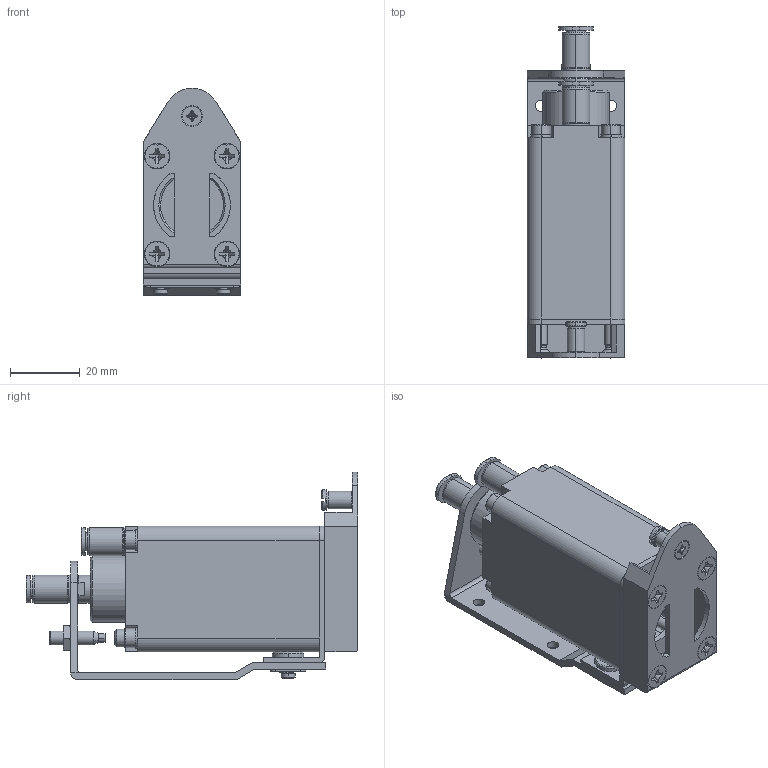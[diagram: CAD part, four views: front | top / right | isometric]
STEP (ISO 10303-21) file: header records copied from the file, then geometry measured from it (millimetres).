
FILE_DESCRIPTION (( 'STEP AP214' ), '1' );
FILE_NAME ('GT-NY10-4.STEP', '2019-11-26T08:02:53', ( '微软用户' ), ( '微软中国' ), 'SwSTEP 2.0', 'SolidWorks 2016', '' );
FILE_SCHEMA (( 'AUTOMOTIVE_DESIGN' ));
Length unit declared in the file: millimetre
Products named in the file (1): GT-NY10-4
Bounding box: 28 x 95 x 59.5 mm (x, y, z)
Surface area: 27682.7 mm2 (no closed solid volume)
Topology: 0 solids, 29 shells, 751 faces, 1922 edges, 1248 vertices
Faces by surface type: plane 331, cylinder 252, bspline 114, cone 32, torus 22
Entity records: 31252 total; most frequent: CARTESIAN_POINT 9806, ORIENTED_EDGE 3774, DIRECTION 3450, EDGE_CURVE 1912, AXIS2_PLACEMENT_3D 1312, VERTEX_POINT 1248, EDGE_LOOP 851, VECTOR 826
